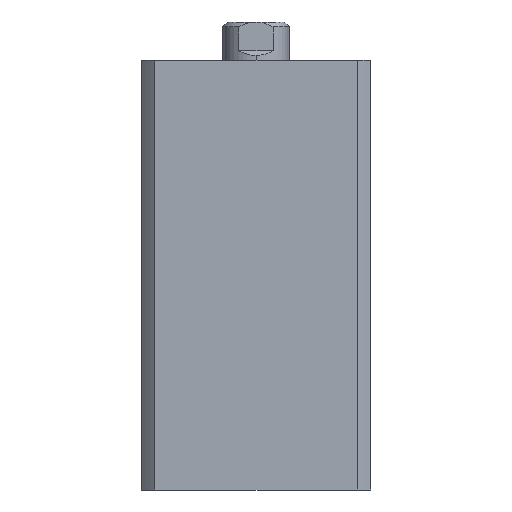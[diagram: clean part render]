
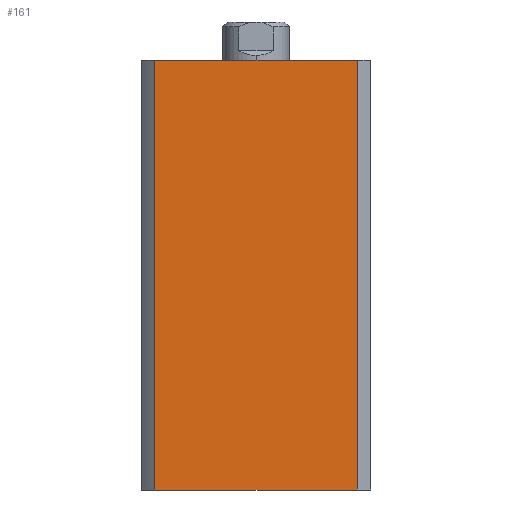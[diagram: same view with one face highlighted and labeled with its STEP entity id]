
A CAD part, left-side view. The second image highlights one B-rep face of the part: STEP entity #161.
In plain terms, the highlighted planar face has unit normal (-1, 0, 0).
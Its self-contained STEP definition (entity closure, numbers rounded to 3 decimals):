
#161 = ADVANCED_FACE ( 'NONE', ( #3371 ), #2742, .F. ) ;
#277 = CARTESIAN_POINT ( 'NONE',  ( -24., 0., 0. ) ) ;
#278 = DIRECTION ( 'NONE',  ( 0., -1., 0. ) ) ;
#282 = CARTESIAN_POINT ( 'NONE',  ( -24., 21.166, 90. ) ) ;
#283 = CARTESIAN_POINT ( 'NONE',  ( -24., -21.166, 90. ) ) ;
#288 = DIRECTION ( 'NONE',  ( 0., 0., -1. ) ) ;
#290 = DIRECTION ( 'NONE',  ( 0., 0., -1. ) ) ;
#680 = VERTEX_POINT ( 'NONE', #4673 ) ;
#699 = VERTEX_POINT ( 'NONE', #4689 ) ;
#711 = VERTEX_POINT ( 'NONE', #4701 ) ;
#946 = VERTEX_POINT ( 'NONE', #4758 ) ;
#1117 = EDGE_LOOP ( 'NONE', ( #3929, #3930, #3931, #3934 ) ) ;
#1541 = CARTESIAN_POINT ( 'NONE',  ( -24., 0., 90. ) ) ;
#1542 = DIRECTION ( 'NONE',  ( 0., -1., 0. ) ) ;
#2249 = AXIS2_PLACEMENT_3D ( 'NONE', #2745, #2738, #2737 ) ;
#2737 = DIRECTION ( 'NONE',  ( 0., 0., -1. ) ) ;
#2738 = DIRECTION ( 'NONE',  ( 1., 0., 0. ) ) ;
#2742 = PLANE ( 'NONE',  #2249 ) ;
#2745 = CARTESIAN_POINT ( 'NONE',  ( -24., 0., 90. ) ) ;
#2975 = LINE ( 'NONE', #1541, #2977 ) ;
#2977 = VECTOR ( 'NONE', #1542, 1000. ) ;
#3006 = LINE ( 'NONE', #283, #3013 ) ;
#3009 = LINE ( 'NONE', #277, #3011 ) ;
#3010 = LINE ( 'NONE', #282, #3015 ) ;
#3011 = VECTOR ( 'NONE', #278, 1000. ) ;
#3013 = VECTOR ( 'NONE', #288, 1000. ) ;
#3015 = VECTOR ( 'NONE', #290, 1000. ) ;
#3371 = FACE_OUTER_BOUND ( 'NONE', #1117, .T. ) ;
#3929 = ORIENTED_EDGE ( 'NONE', *, *, #4810, .T. ) ;
#3930 = ORIENTED_EDGE ( 'NONE', *, *, #4811, .F. ) ;
#3931 = ORIENTED_EDGE ( 'NONE', *, *, #4781, .F. ) ;
#3934 = ORIENTED_EDGE ( 'NONE', *, *, #4812, .T. ) ;
#4673 = CARTESIAN_POINT ( 'NONE',  ( -24., -21.166, 0. ) ) ;
#4689 = CARTESIAN_POINT ( 'NONE',  ( -24., 21.166, 0. ) ) ;
#4701 = CARTESIAN_POINT ( 'NONE',  ( -24., -21.166, 90. ) ) ;
#4758 = CARTESIAN_POINT ( 'NONE',  ( -24., 21.166, 90. ) ) ;
#4781 = EDGE_CURVE ( 'NONE', #946, #711, #2975, .T. ) ;
#4810 = EDGE_CURVE ( 'NONE', #699, #680, #3009, .T. ) ;
#4811 = EDGE_CURVE ( 'NONE', #711, #680, #3006, .T. ) ;
#4812 = EDGE_CURVE ( 'NONE', #946, #699, #3010, .T. ) ;
